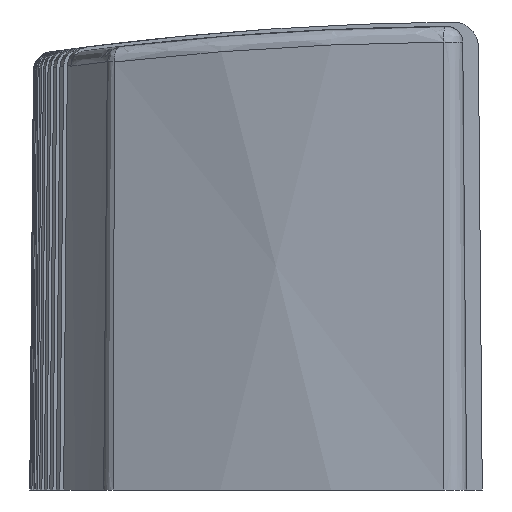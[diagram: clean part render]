
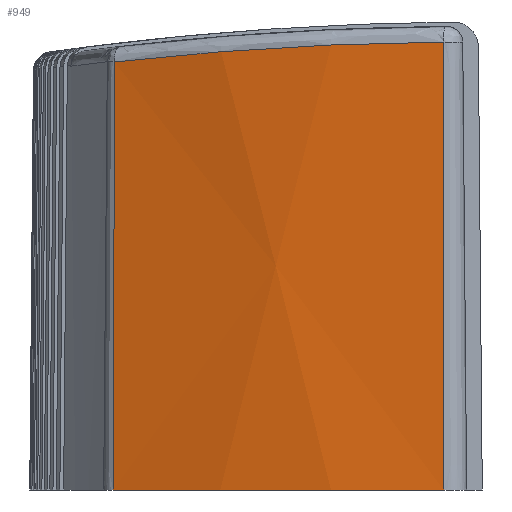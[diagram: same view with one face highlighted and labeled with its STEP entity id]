
A CAD part, left-side view. The second image highlights one B-rep face of the part: STEP entity #949.
In plain terms, the highlighted conical face has half-angle 0.5 degrees and reference radius 32.37 mm.
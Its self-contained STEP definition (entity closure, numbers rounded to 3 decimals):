
#165=(
BOUNDED_CURVE()
B_SPLINE_CURVE(3,(#8004,#8005,#8006,#8007,#8008),.UNSPECIFIED.,.F.,.F.)
B_SPLINE_CURVE_WITH_KNOTS((4,1,4),(0.,0.503,1.),
 .UNSPECIFIED.)
CURVE()
GEOMETRIC_REPRESENTATION_ITEM()
RATIONAL_B_SPLINE_CURVE((1.,1.,1.,1.,1.))
REPRESENTATION_ITEM('')
);
#270=CONICAL_SURFACE('',#4576,32.37,0.5);
#463=FACE_OUTER_BOUND('',#1270,.T.);
#949=ADVANCED_FACE('',(#463),#270,.T.);
#1270=EDGE_LOOP('',(#2801,#2802,#2803,#2804));
#1523=LINE('',#8002,#1764);
#1524=LINE('',#8010,#1765);
#1764=VECTOR('',#5357,1.);
#1765=VECTOR('',#5360,1.);
#2801=ORIENTED_EDGE('',*,*,#3540,.F.);
#2802=ORIENTED_EDGE('',*,*,#4082,.F.);
#2803=ORIENTED_EDGE('',*,*,#4083,.F.);
#2804=ORIENTED_EDGE('',*,*,#4084,.F.);
#3116=VERTEX_POINT('',#5538);
#3117=VERTEX_POINT('',#5540);
#3476=VERTEX_POINT('',#7972);
#3478=VERTEX_POINT('',#8009);
#3540=EDGE_CURVE('',#3116,#3117,#4187,.T.);
#4082=EDGE_CURVE('',#3476,#3116,#1523,.T.);
#4083=EDGE_CURVE('',#3478,#3476,#165,.T.);
#4084=EDGE_CURVE('',#3117,#3478,#1524,.T.);
#4187=CIRCLE('',#4322,32.5);
#4322=AXIS2_PLACEMENT_3D('',#5539,#4653,#4654);
#4576=AXIS2_PLACEMENT_3D('',#8011,#5361,#5362);
#4653=DIRECTION('',(0.,0.,-1.));
#4654=DIRECTION('',(-1.,0.,0.));
#5357=DIRECTION('',(-0.009,0.,-1.));
#5360=DIRECTION('',(0.008,-0.003,1.));
#5361=DIRECTION('',(0.,0.,-1.));
#5362=DIRECTION('',(-0.925,0.379,0.));
#5538=CARTESIAN_POINT('',(-33.454,1.237,0.));
#5539=CARTESIAN_POINT('',(-1.,-0.5,0.));
#5540=CARTESIAN_POINT('',(-31.071,11.828,0.));
#7972=CARTESIAN_POINT('',(-33.328,1.231,14.352));
#8002=CARTESIAN_POINT('',(-33.328,1.231,14.352));
#8004=CARTESIAN_POINT('',(-30.961,11.782,13.714));
#8005=CARTESIAN_POINT('',(-31.648,10.101,13.906));
#8006=CARTESIAN_POINT('',(-32.736,6.638,14.214));
#8007=CARTESIAN_POINT('',(-33.232,3.031,14.339));
#8008=CARTESIAN_POINT('',(-33.328,1.231,14.352));
#8009=CARTESIAN_POINT('',(-30.961,11.782,13.714));
#8010=CARTESIAN_POINT('',(-31.071,11.828,0.));
#8011=CARTESIAN_POINT('',(-1.,-0.5,14.847));
